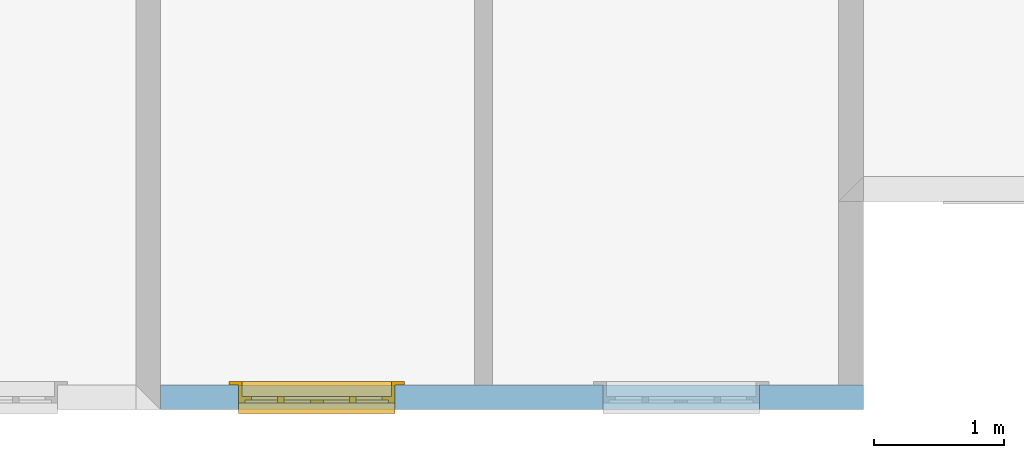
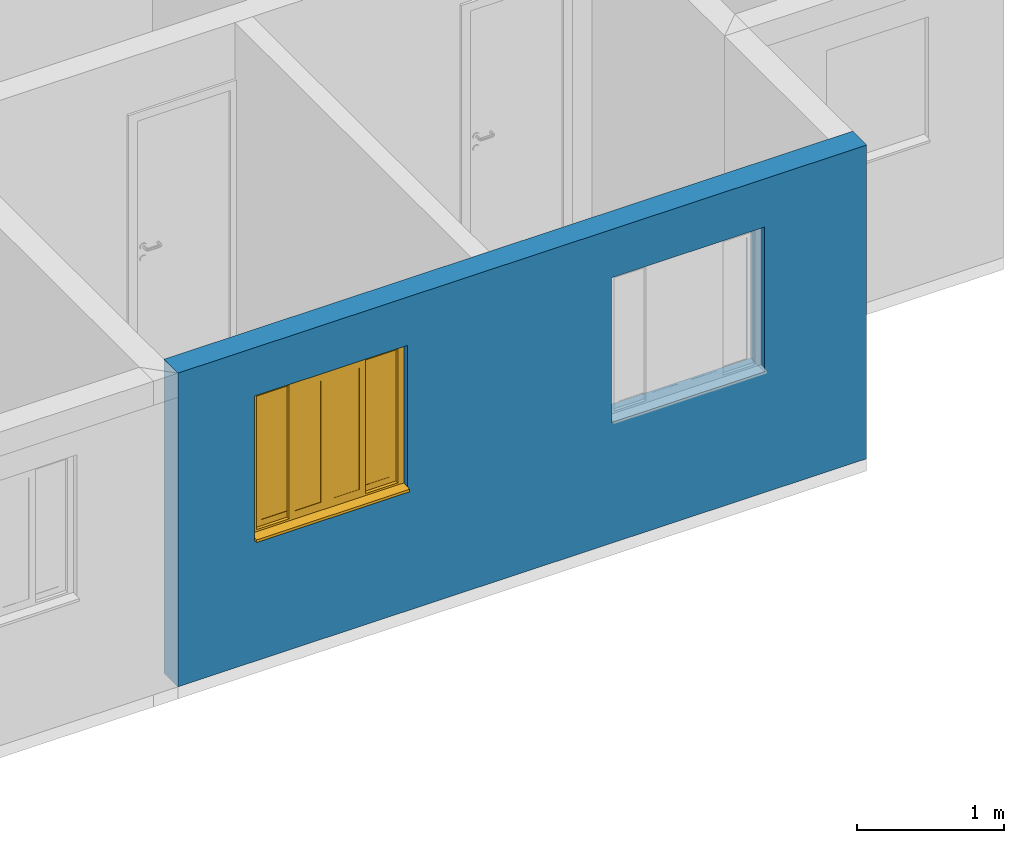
# One storey, part 15 of 47: 1 wall, 1 window, 2 openings.
"""IFC2X3 building model written with IfcOpenShell, lengths in millimetres."""

from ifc_helpers import new_model, entity, si_unit, converted_unit, derived_unit, money_unit, direction, frame, origin_with_axes, origin_2d_with_axis, place, context, subcontext, project, spatial, polyline, rectangle, outline, extrude, open_shell, faceted_brep, surface_model, source, transform, mapped, material, layer, layer_set, layer_usage, type_object, element, fill, save


model = new_model("IFC2X3")

# Units and contexts
model_context = context("Model", 3, precision=0.01, world=origin_with_axes(), true_north=direction((0.0, 1.0)))
body_context = subcontext(model_context, "Body", "Model", "MODEL_VIEW")
ifc_project = project(units=[si_unit("LENGTHUNIT", "METRE", prefix="MILLI"), si_unit("AREAUNIT", "SQUARE_METRE"), si_unit("VOLUMEUNIT", "CUBIC_METRE"), converted_unit("PLANEANGLEUNIT", "DEGREE", entity("IfcPlaneAngleMeasure", 0.0174532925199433), si_unit("PLANEANGLEUNIT", "RADIAN"), dimensions=[0, 0, 0, 0, 0, 0, 0]), money_unit("USD"), converted_unit("TIMEUNIT", "Year", entity("IfcTimeMeasure", 31557600.0), si_unit("TIMEUNIT", "SECOND"), dimensions=[0, 0, 1, 0, 0, 0, 0]), si_unit("MASSUNIT", "GRAM", prefix="KILO"), si_unit("THERMODYNAMICTEMPERATUREUNIT", "DEGREE_CELSIUS"), si_unit("LUMINOUSINTENSITYUNIT", "LUMEN"), si_unit("ENERGYUNIT", "JOULE", prefix="MEGA"), derived_unit("THERMALCONDUCTANCEUNIT", [(si_unit("POWERUNIT", "WATT"), 1), (si_unit("LENGTHUNIT", "METRE"), -1), (si_unit("THERMODYNAMICTEMPERATUREUNIT", "KELVIN"), -1)]), derived_unit("SPECIFICHEATCAPACITYUNIT", [(si_unit("ENERGYUNIT", "JOULE"), 1), (si_unit("MASSUNIT", "GRAM", prefix="KILO"), -1), (si_unit("THERMODYNAMICTEMPERATUREUNIT", "KELVIN"), -1)]), derived_unit("MASSDENSITYUNIT", [(si_unit("MASSUNIT", "GRAM", prefix="KILO"), 1), (si_unit("VOLUMEUNIT", "CUBIC_METRE"), -1)])], contexts=[model_context])

# Site, building, storey
site_placement = place(None, origin_with_axes())
site = spatial("IfcSite", under=ifc_project, at=site_placement, Name="Local", CompositionType="ELEMENT")
building_placement = place(site_placement, origin_with_axes())
building = spatial("IfcBuilding", under=site, at=building_placement, Name="Construção", CompositionType="ELEMENT")
storey_placement = place(building_placement, origin_with_axes())
storey = spatial("IfcBuildingStorey", under=building, at=storey_placement, Name="Pavimento Tipo", CompositionType="ELEMENT", Elevation=0.0)

# Wall, openings, window
ifc_material = material(Name="Concreto - Estrutural")
ifc_layer = layer(ifc_material, 190.0, ventilated="UNKNOWN")
ifc_layer_set = layer_set([ifc_layer], Name="Concreto - Estrutural 190")
ifc_layer_usage = layer_usage(ifc_layer_set, "AXIS2", "POSITIVE", -190.0)
wall_type = type_object("IfcWallType", Name="Concreto - Estrutural 190", PredefinedType="NOTDEFINED")
wall_placement = place(storey_placement, frame((6442.566997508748, -1603.018582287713, 0.0), z_axis=(0.0, 0.0, 1.0), x_axis=(-1.0, 0.0, 0.0)))
wall = element("IfcWallStandardCase", 1, at=wall_placement, inside=storey, type_object=wall_type, material=ifc_layer_usage, Name="Apartamento 4 - Parede-004", context=body_context, shape_type="SweptSolid", body=[
    extrude(outline(polyline([(0.0, -189.9999999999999), (5399.999999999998, -189.9999999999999), (5399.999999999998, 0.0), (0.0, 0.0), (0.0, -189.9999999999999)])), origin_with_axes(), (0.0, 0.0, 1.0), 2600.0),
])
opening_1_placement = place(wall_placement, frame((4199.999999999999, 0.0, 1000.0), z_axis=(0.0, 0.0, 1.0), x_axis=(1.0, 0.0, 0.0)))
opening_1 = element("IfcOpeningElement", 2, at=opening_1_placement, cuts=wall, Name="Apartamento 4 - J06", context=body_context, shape_type="SweptSolid", body=[
    extrude(rectangle(XDim=1200.0, YDim=1200.0, at=origin_2d_with_axis()), frame((0.0, -50.00000000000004, 600.0000000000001), z_axis=(0.0, -1.0, 0.0), x_axis=(-1.0, 0.0, 0.0)), (0.0, 0.0, 1.0), 330.0),
    extrude(rectangle(XDim=1200.0, YDim=1200.0, at=origin_2d_with_axis()), frame((0.0, -50.00000000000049, 600.0000000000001), z_axis=(0.0, 1.0, 0.0), x_axis=(-1.0, 0.0, 0.0)), (0.0, 0.0, 1.0), 240.0),
    extrude(rectangle(XDim=1349.999999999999, YDim=1350.0, at=origin_2d_with_axis()), frame((0.0, -190.0000000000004, 600.0000000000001), z_axis=(0.0, -1.0, 0.0), x_axis=(-1.0, 0.0, 0.0)), (0.0, 0.0, 1.0), 240.0),
])
opening_2_placement = place(wall_placement, frame((1400.0, 0.0, 1000.0), z_axis=(0.0, 0.0, 1.0), x_axis=(1.0, 0.0, 0.0)))
element("IfcOpeningElement", 3, at=opening_2_placement, cuts=wall, Name="Apartamento 4 - J05", context=body_context, shape_type="SweptSolid", body=[
    extrude(rectangle(XDim=1199.999999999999, YDim=1200.0, at=origin_2d_with_axis()), frame((0.0, -50.00000000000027, 600.0000000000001), z_axis=(0.0, 1.0, 0.0), x_axis=(1.0, 0.0, 0.0)), (0.0, 0.0, -1.0), 330.0),
    extrude(rectangle(XDim=1199.999999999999, YDim=1200.0, at=origin_2d_with_axis()), frame((0.0, -50.00000000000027, 600.0000000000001), z_axis=(0.0, -1.0, 0.0), x_axis=(1.0, 0.0, 0.0)), (0.0, 0.0, -1.0), 240.0),
    extrude(rectangle(XDim=1350.0, YDim=1350.0, at=origin_2d_with_axis()), frame((0.0, -190.0000000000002, 600.0000000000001), z_axis=(0.0, 1.0, 0.0), x_axis=(1.0, 0.0, 0.0)), (0.0, 0.0, -1.0), 240.0),
])
window_style = type_object("IfcWindowStyle", Name="Janela de Correr 4-Folhas 27", ConstructionType="NOTDEFINED", OperationType="USERDEFINED", ParameterTakesPrecedence=False, Sizeable=False)
shared_shape = source(origin_with_axes(), body_context, "Body", "SurfaceModel", [
    faceted_brep([(600.0, 0.0, 5.0), (600.0, 50.0, 5.000000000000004), (600.0, 50.0, 27.37961103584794), (600.0, 0.0, 30.0), (-600.0, 0.0, 5.0), (-600.0, 50.0, 5.000000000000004), (-600.0, 80.0, 5.000000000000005), (600.0, 80.0, 5.000000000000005), (600.0, 80.0, 25.8073776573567), (-600.0, 80.0, 25.8073776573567), (-600.0, 50.0, 27.37961103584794), (-600.0, 0.0, 30.0)], [[[0, 1, 2, 3]], [[0, 4, 5, 6, 7, 1]], [[1, 7, 8, 2]], [[3, 2, 8, 9, 10, 11]], [[4, 0, 3, 11]], [[5, 4, 11, 10]], [[6, 5, 10, 9]], [[7, 6, 9, 8]]]),
    faceted_brep([(600.0, 0.0, 0.0), (600.0, 50.0, 0.0), (600.0, 50.0, 5.0), (600.0, 0.0, 5.0), (-600.0, 0.0, 0.0), (-600.0, 50.0, 0.0), (-600.0, 50.0, 5.0), (-600.0, 0.0, 5.0)], [[[0, 1, 2, 3]], [[0, 4, 5, 1]], [[1, 5, 6, 2]], [[3, 2, 6, 7]], [[4, 0, 3, 7]], [[5, 4, 7, 6]]]),
    faceted_brep([(600.0, -50.0, 0.0), (600.0, -140.0, 0.0), (-600.0, -140.0, 0.0), (-600.0, -50.0, 0.0), (600.0, -50.00000000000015, 1200.0), (600.0, -140.0000000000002, 1200.0), (-600.0, -140.0000000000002, 1200.0), (575.0, -140.0, 24.99999999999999), (-575.0, -140.0, 24.99999999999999), (-575.0, -140.0000000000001, 1175.0), (575.0, -140.0000000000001, 1175.0), (-600.0, -50.00000000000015, 1200.0), (575.0, -50.0, 24.99999999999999), (575.0, -50.00000000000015, 1175.0), (-575.0, -50.00000000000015, 1175.0), (-575.0, -50.0, 24.99999999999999)], [[[0, 1, 2, 3]], [[4, 5, 1, 0]], [[1, 5, 6, 2], [7, 8, 9, 10]], [[3, 2, 6, 11]], [[0, 3, 11, 4], [12, 13, 14, 15]], [[11, 6, 5, 4]], [[15, 8, 7, 12]], [[14, 9, 8, 15]], [[13, 10, 9, 14]], [[12, 7, 10, 13]]]),
    faceted_brep([(674.9999999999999, -165.0, -75.00000000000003), (575.0, -165.0, 24.99999999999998), (575.0, -140.0, 24.99999999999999), (674.9999999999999, -140.0, -75.00000000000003), (674.9999999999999, -165.0000000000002, 1275.0), (575.0, -165.0000000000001, 1175.0), (575.0, -140.0000000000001, 1175.0), (674.9999999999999, -140.0000000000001, 1275.0)], [[[0, 1, 2, 3]], [[0, 4, 5, 1]], [[1, 5, 6, 2]], [[3, 2, 6, 7]], [[4, 0, 3, 7]], [[5, 4, 7, 6]]]),
    faceted_brep([(-674.9999999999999, -165.0000000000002, 1275.0), (-575.0, -165.0000000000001, 1175.0), (-575.0, -140.0000000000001, 1175.0), (-674.9999999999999, -140.0000000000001, 1275.0), (-674.9999999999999, -165.0, -75.00000000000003), (-575.0, -165.0, 24.99999999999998), (-575.0, -140.0, 24.99999999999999), (-674.9999999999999, -140.0, -75.00000000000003)], [[[0, 1, 2, 3]], [[0, 4, 5, 1]], [[1, 5, 6, 2]], [[3, 2, 6, 7]], [[4, 0, 3, 7]], [[5, 4, 7, 6]]]),
    faceted_brep([(-674.9999999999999, -165.0, -75.00000000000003), (-575.0, -165.0, 24.99999999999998), (-575.0, -140.0, 24.99999999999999), (-674.9999999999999, -140.0, -75.00000000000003), (674.9999999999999, -165.0, -75.00000000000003), (575.0, -165.0, 24.99999999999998), (575.0, -140.0, 24.99999999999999), (674.9999999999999, -140.0, -75.00000000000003)], [[[0, 1, 2, 3]], [[0, 4, 5, 1]], [[1, 5, 6, 2]], [[3, 2, 6, 7]], [[4, 0, 3, 7]], [[5, 4, 7, 6]]]),
    faceted_brep([(674.9999999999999, -165.0000000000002, 1275.0), (575.0, -165.0000000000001, 1175.0), (575.0, -140.0000000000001, 1175.0), (674.9999999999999, -140.0000000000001, 1275.0), (-674.9999999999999, -165.0000000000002, 1275.0), (-575.0, -165.0000000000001, 1175.0), (-575.0, -140.0000000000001, 1175.0), (-674.9999999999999, -140.0000000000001, 1275.0)], [[[0, 1, 2, 3]], [[0, 4, 5, 1]], [[1, 5, 6, 2]], [[3, 2, 6, 7]], [[4, 0, 3, 7]], [[5, 4, 7, 6]]]),
    faceted_brep([(552.9999999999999, -50.00000000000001, 47.0), (552.9999999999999, -50.00000000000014, 1153.0), (552.9999999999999, 0.0, 1153.0), (552.9999999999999, 0.0, 47.00000000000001), (600.0, -50.00000000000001, 47.0), (600.0, -50.00000000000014, 1153.0), (600.0, 0.0, 1153.0), (600.0, 0.0, 47.00000000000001)], [[[0, 1, 2, 3]], [[0, 4, 5, 1]], [[1, 5, 6, 2]], [[3, 2, 6, 7]], [[4, 0, 3, 7]], [[5, 4, 7, 6]]]),
    faceted_brep([(-600.0, -50.00000000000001, 47.0), (-600.0, -50.00000000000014, 1153.0), (-600.0, 0.0, 1153.0), (-600.0, 0.0, 47.00000000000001), (-552.9999999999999, -50.00000000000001, 47.0), (-552.9999999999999, -50.00000000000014, 1153.0), (-552.9999999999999, 0.0, 1153.0), (-552.9999999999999, 0.0, 47.00000000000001)], [[[0, 1, 2, 3]], [[0, 4, 5, 1]], [[1, 5, 6, 2]], [[3, 2, 6, 7]], [[4, 0, 3, 7]], [[5, 4, 7, 6]]]),
    faceted_brep([(-600.0, -50.00000000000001, 47.0), (-552.9999999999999, -50.00000000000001, 47.0), (-552.9999999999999, 0.0, 47.00000000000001), (-600.0, 0.0, 47.00000000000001), (-600.0, -50.0, 0.0), (600.0, -50.0, 0.0), (600.0, -50.00000000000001, 47.0), (552.9999999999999, -50.00000000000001, 47.0), (552.9999999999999, 0.0, 47.00000000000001), (600.0, 0.0, 47.00000000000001), (600.0, 0.0, 0.0), (-600.0, 0.0, 0.0)], [[[0, 1, 2, 3]], [[0, 4, 5, 6, 7, 1]], [[1, 7, 8, 2]], [[3, 2, 8, 9, 10, 11]], [[4, 0, 3, 11]], [[5, 4, 11, 10]], [[6, 5, 10, 9]], [[7, 6, 9, 8]]]),
    faceted_brep([(-600.0, -50.00000000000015, 1200.0), (600.0, -50.00000000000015, 1200.0), (600.0, 0.0, 1200.0), (-600.0, 0.0, 1200.0), (-600.0, -50.00000000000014, 1153.0), (-552.9999999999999, -50.00000000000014, 1153.0), (-276.5, -50.00000000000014, 1153.0), (0.0, -50.00000000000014, 1153.0), (276.4999999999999, -50.00000000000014, 1153.0), (552.9999999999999, -50.00000000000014, 1153.0), (600.0, -50.00000000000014, 1153.0), (600.0, 0.0, 1153.0), (552.9999999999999, 0.0, 1153.0), (276.4999999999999, 0.0, 1153.0), (0.0, 0.0, 1153.0), (-276.5, 0.0, 1153.0), (-552.9999999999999, 0.0, 1153.0), (-600.0, 0.0, 1153.0)], [[[0, 1, 2, 3]], [[0, 4, 5, 6, 7, 8, 9, 10, 1]], [[1, 10, 11, 2]], [[3, 2, 11, 12, 13, 14, 15, 16, 17]], [[4, 0, 3, 17]], [[5, 4, 17, 16]], [[6, 5, 16, 15]], [[7, 6, 15, 14]], [[8, 7, 14, 13]], [[9, 8, 13, 12]], [[10, 9, 12, 11]]]),
    faceted_brep([(502.9999999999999, -50.00000000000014, 1103.0), (552.9999999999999, -50.00000000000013, 1103.0), (552.9999999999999, -25.00000000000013, 1103.0), (502.9999999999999, -25.00000000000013, 1103.0), (502.9999999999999, -50.00000000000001, 97.0), (552.9999999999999, -50.00000000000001, 97.0), (552.9999999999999, -25.0, 97.0), (502.9999999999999, -25.00000000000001, 97.0)], [[[0, 1, 2, 3]], [[0, 4, 5, 1]], [[1, 5, 6, 2]], [[3, 2, 6, 7]], [[4, 0, 3, 7]], [[5, 4, 7, 6]]]),
    faceted_brep([(301.4999999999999, -50.00000000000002, 97.0), (251.4999999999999, -50.00000000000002, 97.0), (251.4999999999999, -25.00000000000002, 97.0), (301.4999999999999, -25.00000000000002, 97.0), (301.4999999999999, -50.00000000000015, 1103.0), (251.4999999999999, -50.00000000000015, 1103.0), (251.4999999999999, -25.00000000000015, 1103.0), (301.4999999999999, -25.00000000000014, 1103.0)], [[[0, 1, 2, 3]], [[0, 4, 5, 1]], [[1, 5, 6, 2]], [[3, 2, 6, 7]], [[4, 0, 3, 7]], [[5, 4, 7, 6]]]),
    faceted_brep([(251.4999999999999, -50.00000000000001, 47.0), (251.4999999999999, -50.00000000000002, 97.0), (251.4999999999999, -25.00000000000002, 97.0), (251.4999999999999, -25.00000000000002, 47.0), (552.9999999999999, -50.0, 47.0), (552.9999999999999, -50.00000000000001, 97.0), (502.9999999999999, -50.00000000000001, 97.0), (301.4999999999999, -50.00000000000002, 97.0), (301.4999999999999, -25.00000000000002, 97.0), (502.9999999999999, -25.00000000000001, 97.0), (552.9999999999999, -25.0, 97.0), (552.9999999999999, -25.0, 47.0)], [[[0, 1, 2, 3]], [[0, 4, 5, 6, 7, 1]], [[1, 7, 8, 2]], [[3, 2, 8, 9, 10, 11]], [[4, 0, 3, 11]], [[5, 4, 11, 10]], [[6, 5, 10, 9]], [[7, 6, 9, 8]]]),
    faceted_brep([(552.9999999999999, -50.00000000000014, 1153.0), (552.9999999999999, -50.00000000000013, 1103.0), (552.9999999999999, -25.00000000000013, 1103.0), (552.9999999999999, -25.00000000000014, 1153.0), (251.4999999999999, -50.00000000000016, 1153.0), (251.4999999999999, -50.00000000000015, 1103.0), (301.4999999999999, -50.00000000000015, 1103.0), (502.9999999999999, -50.00000000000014, 1103.0), (502.9999999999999, -25.00000000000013, 1103.0), (301.4999999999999, -25.00000000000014, 1103.0), (251.4999999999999, -25.00000000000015, 1103.0), (251.4999999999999, -25.00000000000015, 1153.0)], [[[0, 1, 2, 3]], [[0, 4, 5, 6, 7, 1]], [[1, 7, 8, 2]], [[3, 2, 8, 9, 10, 11]], [[4, 0, 3, 11]], [[5, 4, 11, 10]], [[6, 5, 10, 9]], [[7, 6, 9, 8]]]),
    surface_model("IfcShellBasedSurfaceModel", [(502.9999999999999, -47.50000000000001, 97.0), (502.9999999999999, -47.50000000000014, 1103.0), (301.4999999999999, -47.50000000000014, 1103.0), (301.4999999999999, -47.50000000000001, 97.0)], [open_shell([[[0, 1, 2, 3]]])]),
    surface_model("IfcShellBasedSurfaceModel", [(502.9999999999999, -27.50000000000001, 97.0), (301.4999999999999, -27.50000000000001, 97.0), (301.4999999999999, -27.50000000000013, 1103.0), (502.9999999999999, -27.50000000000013, 1103.0)], [open_shell([[[0, 1, 2, 3]]])]),
    faceted_brep([(251.4999999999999, -25.00000000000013, 1103.0), (301.4999999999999, -25.00000000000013, 1103.0), (301.4999999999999, 0.0, 1103.0), (251.4999999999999, 0.0, 1103.0), (251.4999999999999, -25.00000000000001, 97.0), (301.4999999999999, -25.0, 97.0), (301.4999999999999, 0.0, 97.0), (251.4999999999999, 0.0, 97.0)], [[[0, 1, 2, 3]], [[0, 4, 5, 1]], [[1, 5, 6, 2]], [[3, 2, 6, 7]], [[4, 0, 3, 7]], [[5, 4, 7, 6]]]),
    faceted_brep([(49.99999999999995, -25.00000000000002, 97.0), (0.0, -25.00000000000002, 97.0), (0.0, 0.0, 97.0), (49.99999999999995, 0.0, 97.0), (49.99999999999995, -25.00000000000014, 1103.0), (0.0, -25.00000000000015, 1103.0), (0.0, 0.0, 1103.0), (49.99999999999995, 0.0, 1103.0)], [[[0, 1, 2, 3]], [[0, 4, 5, 1]], [[1, 5, 6, 2]], [[3, 2, 6, 7]], [[4, 0, 3, 7]], [[5, 4, 7, 6]]]),
    faceted_brep([(0.0, -25.00000000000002, 47.0), (0.0, -25.00000000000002, 97.0), (0.0, 0.0, 97.0), (0.0, 0.0, 47.0), (301.4999999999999, -25.0, 47.0), (301.4999999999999, -25.0, 97.0), (251.4999999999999, -25.00000000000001, 97.0), (49.99999999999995, -25.00000000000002, 97.0), (49.99999999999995, 0.0, 97.0), (251.4999999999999, 0.0, 97.0), (301.4999999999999, 0.0, 97.0), (301.4999999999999, 0.0, 47.0)], [[[0, 1, 2, 3]], [[0, 4, 5, 6, 7, 1]], [[1, 7, 8, 2]], [[3, 2, 8, 9, 10, 11]], [[4, 0, 3, 11]], [[5, 4, 11, 10]], [[6, 5, 10, 9]], [[7, 6, 9, 8]]]),
    faceted_brep([(301.4999999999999, -25.00000000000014, 1153.0), (301.4999999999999, -25.00000000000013, 1103.0), (301.4999999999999, 0.0, 1103.0), (301.4999999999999, 0.0, 1153.0), (0.0, -25.00000000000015, 1153.0), (0.0, -25.00000000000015, 1103.0), (49.99999999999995, -25.00000000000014, 1103.0), (251.4999999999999, -25.00000000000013, 1103.0), (251.4999999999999, 0.0, 1103.0), (49.99999999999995, 0.0, 1103.0), (0.0, 0.0, 1103.0), (0.0, 0.0, 1153.0)], [[[0, 1, 2, 3]], [[0, 4, 5, 6, 7, 1]], [[1, 7, 8, 2]], [[3, 2, 8, 9, 10, 11]], [[4, 0, 3, 11]], [[5, 4, 11, 10]], [[6, 5, 10, 9]], [[7, 6, 9, 8]]]),
    surface_model("IfcShellBasedSurfaceModel", [(251.4999999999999, -22.50000000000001, 97.0), (251.4999999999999, -22.50000000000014, 1103.0), (49.99999999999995, -22.50000000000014, 1103.0), (49.99999999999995, -22.50000000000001, 97.0)], [open_shell([[[0, 1, 2, 3]]])]),
    surface_model("IfcShellBasedSurfaceModel", [(251.4999999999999, -2.500000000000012, 97.0), (49.99999999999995, -2.500000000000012, 97.0), (49.99999999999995, -2.500000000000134, 1103.0), (251.4999999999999, -2.500000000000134, 1103.0)], [open_shell([[[0, 1, 2, 3]]])]),
    faceted_brep([(-50.00000000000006, -25.00000000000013, 1103.0), (0.0, -25.00000000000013, 1103.0), (0.0, 0.0, 1103.0), (-50.00000000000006, 0.0, 1103.0), (-50.00000000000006, -25.00000000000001, 97.0), (0.0, -25.0, 97.0), (0.0, 0.0, 97.0), (-50.00000000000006, 0.0, 97.0)], [[[0, 1, 2, 3]], [[0, 4, 5, 1]], [[1, 5, 6, 2]], [[3, 2, 6, 7]], [[4, 0, 3, 7]], [[5, 4, 7, 6]]]),
    faceted_brep([(-251.5000000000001, -25.00000000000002, 97.0), (-301.5000000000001, -25.00000000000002, 97.0), (-301.5000000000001, 0.0, 97.0), (-251.5000000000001, 0.0, 97.0), (-251.5000000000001, -25.00000000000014, 1103.0), (-301.5000000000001, -25.00000000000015, 1103.0), (-301.5000000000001, 0.0, 1103.0), (-251.5000000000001, 0.0, 1103.0)], [[[0, 1, 2, 3]], [[0, 4, 5, 1]], [[1, 5, 6, 2]], [[3, 2, 6, 7]], [[4, 0, 3, 7]], [[5, 4, 7, 6]]]),
    faceted_brep([(-301.5000000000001, -25.00000000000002, 47.0), (-301.5000000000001, -25.00000000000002, 97.0), (-301.5000000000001, 0.0, 97.0), (-301.5000000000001, 0.0, 47.0), (0.0, -25.0, 47.0), (0.0, -25.0, 97.0), (-50.00000000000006, -25.00000000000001, 97.0), (-251.5000000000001, -25.00000000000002, 97.0), (-251.5000000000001, 0.0, 97.0), (-50.00000000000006, 0.0, 97.0), (0.0, 0.0, 97.0), (0.0, 0.0, 47.0)], [[[0, 1, 2, 3]], [[0, 4, 5, 6, 7, 1]], [[1, 7, 8, 2]], [[3, 2, 8, 9, 10, 11]], [[4, 0, 3, 11]], [[5, 4, 11, 10]], [[6, 5, 10, 9]], [[7, 6, 9, 8]]]),
    faceted_brep([(0.0, -25.00000000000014, 1153.0), (0.0, -25.00000000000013, 1103.0), (0.0, 0.0, 1103.0), (0.0, 0.0, 1153.0), (-301.5000000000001, -25.00000000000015, 1153.0), (-301.5000000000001, -25.00000000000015, 1103.0), (-251.5000000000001, -25.00000000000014, 1103.0), (-50.00000000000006, -25.00000000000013, 1103.0), (-50.00000000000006, 0.0, 1103.0), (-251.5000000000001, 0.0, 1103.0), (-301.5000000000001, 0.0, 1103.0), (-301.5000000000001, 0.0, 1153.0)], [[[0, 1, 2, 3]], [[0, 4, 5, 6, 7, 1]], [[1, 7, 8, 2]], [[3, 2, 8, 9, 10, 11]], [[4, 0, 3, 11]], [[5, 4, 11, 10]], [[6, 5, 10, 9]], [[7, 6, 9, 8]]]),
    surface_model("IfcShellBasedSurfaceModel", [(-50.00000000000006, -22.50000000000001, 97.0), (-50.00000000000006, -22.50000000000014, 1103.0), (-251.5000000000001, -22.50000000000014, 1103.0), (-251.5000000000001, -22.50000000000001, 97.0)], [open_shell([[[0, 1, 2, 3]]])]),
    surface_model("IfcShellBasedSurfaceModel", [(-50.00000000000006, -2.500000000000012, 97.0), (-251.5000000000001, -2.500000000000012, 97.0), (-251.5000000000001, -2.500000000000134, 1103.0), (-50.00000000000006, -2.500000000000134, 1103.0)], [open_shell([[[0, 1, 2, 3]]])]),
    faceted_brep([(-301.5000000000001, -50.00000000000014, 1103.0), (-251.5000000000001, -50.00000000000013, 1103.0), (-251.5000000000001, -25.00000000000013, 1103.0), (-301.5000000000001, -25.00000000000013, 1103.0), (-301.5000000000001, -50.00000000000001, 97.0), (-251.5000000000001, -50.00000000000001, 97.0), (-251.5000000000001, -25.0, 97.0), (-301.5000000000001, -25.00000000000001, 97.0)], [[[0, 1, 2, 3]], [[0, 4, 5, 1]], [[1, 5, 6, 2]], [[3, 2, 6, 7]], [[4, 0, 3, 7]], [[5, 4, 7, 6]]]),
    faceted_brep([(-503.0, -50.00000000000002, 97.0), (-553.0, -50.00000000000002, 97.0), (-553.0, -25.00000000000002, 97.0), (-503.0, -25.00000000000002, 97.0), (-503.0, -50.00000000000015, 1103.0), (-553.0, -50.00000000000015, 1103.0), (-553.0, -25.00000000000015, 1103.0), (-503.0, -25.00000000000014, 1103.0)], [[[0, 1, 2, 3]], [[0, 4, 5, 1]], [[1, 5, 6, 2]], [[3, 2, 6, 7]], [[4, 0, 3, 7]], [[5, 4, 7, 6]]]),
    faceted_brep([(-553.0, -50.00000000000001, 47.0), (-553.0, -50.00000000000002, 97.0), (-553.0, -25.00000000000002, 97.0), (-553.0, -25.00000000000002, 47.0), (-251.5000000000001, -50.0, 47.0), (-251.5000000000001, -50.00000000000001, 97.0), (-301.5000000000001, -50.00000000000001, 97.0), (-503.0, -50.00000000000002, 97.0), (-503.0, -25.00000000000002, 97.0), (-301.5000000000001, -25.00000000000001, 97.0), (-251.5000000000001, -25.0, 97.0), (-251.5000000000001, -25.0, 47.0)], [[[0, 1, 2, 3]], [[0, 4, 5, 6, 7, 1]], [[1, 7, 8, 2]], [[3, 2, 8, 9, 10, 11]], [[4, 0, 3, 11]], [[5, 4, 11, 10]], [[6, 5, 10, 9]], [[7, 6, 9, 8]]]),
    faceted_brep([(-251.5000000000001, -50.00000000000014, 1153.0), (-251.5000000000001, -50.00000000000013, 1103.0), (-251.5000000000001, -25.00000000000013, 1103.0), (-251.5000000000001, -25.00000000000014, 1153.0), (-553.0, -50.00000000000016, 1153.0), (-553.0, -50.00000000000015, 1103.0), (-503.0, -50.00000000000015, 1103.0), (-301.5000000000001, -50.00000000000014, 1103.0), (-301.5000000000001, -25.00000000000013, 1103.0), (-503.0, -25.00000000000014, 1103.0), (-553.0, -25.00000000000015, 1103.0), (-553.0, -25.00000000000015, 1153.0)], [[[0, 1, 2, 3]], [[0, 4, 5, 6, 7, 1]], [[1, 7, 8, 2]], [[3, 2, 8, 9, 10, 11]], [[4, 0, 3, 11]], [[5, 4, 11, 10]], [[6, 5, 10, 9]], [[7, 6, 9, 8]]]),
    surface_model("IfcShellBasedSurfaceModel", [(-301.5, -47.50000000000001, 97.0), (-301.5, -47.50000000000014, 1103.0), (-503.0, -47.50000000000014, 1103.0), (-503.0, -47.50000000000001, 97.0)], [open_shell([[[0, 1, 2, 3]]])]),
    surface_model("IfcShellBasedSurfaceModel", [(-301.5, -27.50000000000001, 97.0), (-503.0, -27.50000000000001, 97.0), (-503.0, -27.50000000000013, 1103.0), (-301.5, -27.50000000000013, 1103.0)], [open_shell([[[0, 1, 2, 3]]])]),
])
window_placement = place(opening_1_placement, frame((-600.0000000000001, 0.0, 0.0), z_axis=(0.0, 0.0, 1.0), x_axis=(1.0, 0.0, 0.0)))
window = element("IfcWindow", 4, at=window_placement, inside=storey, type_object=window_style, Name="Apartamento 4 - J06", ObjectType="WINDOW", OverallHeight=1200.0, OverallWidth=1200.0, context=body_context, shape_type="MappedRepresentation", body=[
    mapped(shared_shape, transform((600.0000000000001, -50.00000000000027, 0.0))),
])
fill(opening_1, window)

save(model, "model.ifc")
